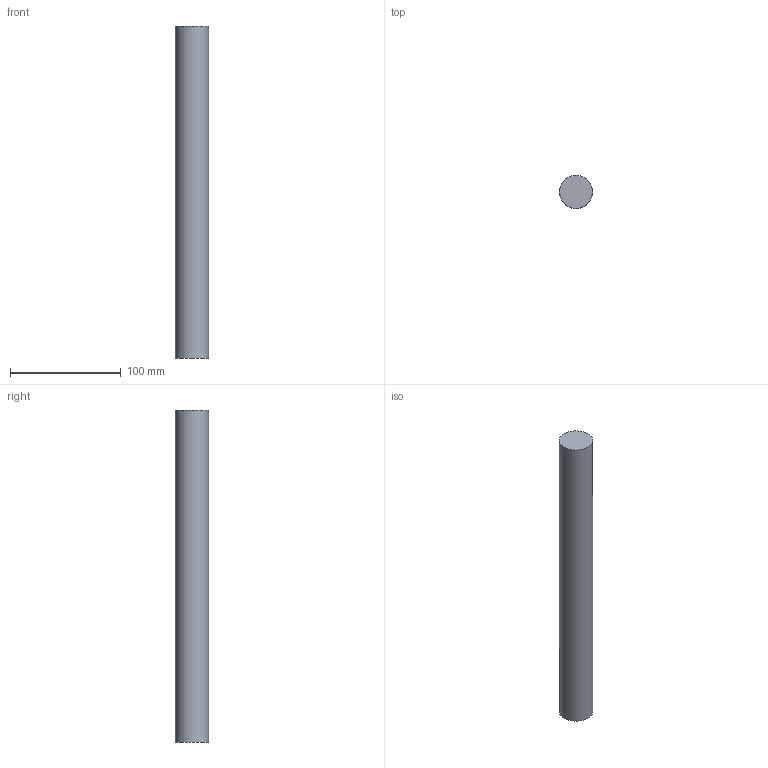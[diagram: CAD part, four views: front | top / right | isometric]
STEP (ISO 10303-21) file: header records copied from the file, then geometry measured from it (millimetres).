
FILE_DESCRIPTION(/* description */ (''),/* implementation_level */ '2;1');
FILE_NAME(/* name */ 'Linear Shaft - Solid - 30mm - Cut To Size.step',/* time_stamp */ '2024-07-15T10:48:32+03:00',/* author */ (''),/* organization */ (''),/* preprocessor_version */ 'ST-DEVELOPER v20',/* originating_system */ 'Autodesk Translation Framework v13.14.0.145',/* authorisation */ '');
FILE_SCHEMA (('AUTOMOTIVE_DESIGN { 1 0 10303 214 3 1 1 }'));
Length unit declared in the file: millimetre
Products named in the file (1): Linear Shaft - Solid - 30mm - Cut To Size
Bounding box: 30 x 30 x 300 mm (x, y, z)
Volume: 212057.5 mm3; surface area: 29688.1 mm2
Topology: 1 solids, 1 shells, 3 faces, 3 edges, 2 vertices
Faces by surface type: plane 2, cylinder 1
Full cylindrical faces by diameter (mm): 30 x1
Entity records: 92 total; most frequent: DIRECTION 13, CARTESIAN_POINT 9, ORIENTED_EDGE 6, AXIS2_PLACEMENT_3D 6, FACE_OUTER_BOUND 3, EDGE_LOOP 3, EDGE_CURVE 3, ADVANCED_FACE 3
